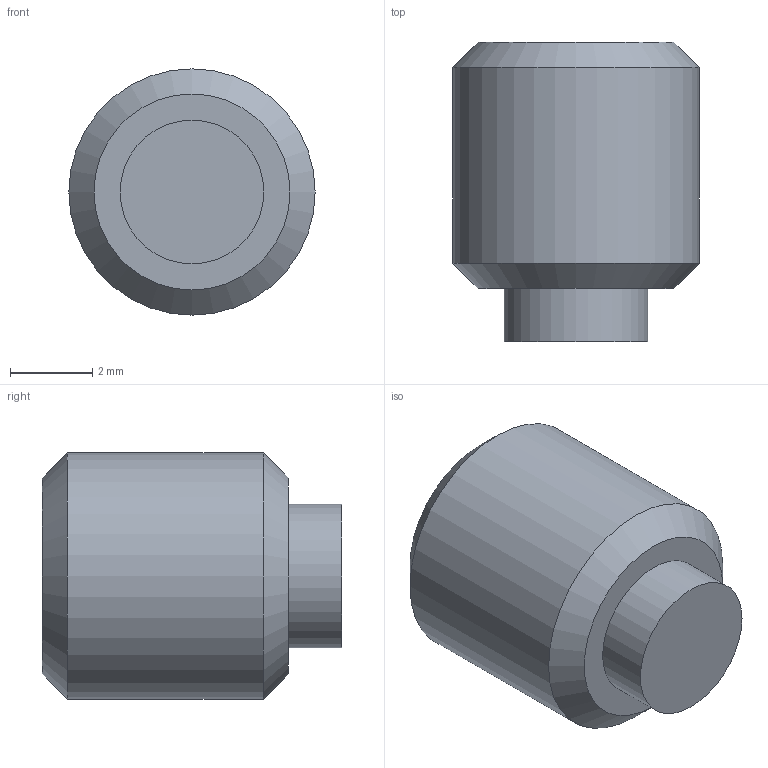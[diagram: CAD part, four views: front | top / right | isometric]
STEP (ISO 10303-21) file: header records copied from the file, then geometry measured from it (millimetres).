
FILE_DESCRIPTION( ( 'STEP AP203' ), '1' );
FILE_NAME( 'C:/Temp/Ganter_Step_05_03_2020/data/3_2/gn913_3/Grub screw GN 913.3-M6-6-KU.stp', '2020-03-13T05:35:35', ( 'License CC BY-ND 4.0' ), ( 'CADENAS' ), ' ', 'PARTsolutions', ' ' );
FILE_SCHEMA( ( 'CONFIG_CONTROL_DESIGN' ) );
Length unit declared in the file: millimetre
Products named in the file (1): _Grub screw GN 913.3-M6-6-KU
Bounding box: 6 x 7.3 x 6 mm (x, y, z)
Volume: 148.3 mm3; surface area: 205.8 mm2
Topology: 1 solids, 1 shells, 14 faces, 28 edges, 18 vertices
Faces by surface type: plane 10, cylinder 2, cone 2
Full cylindrical faces by diameter (mm): 3.5 x1, 6 x1
Entity records: 386 total; most frequent: DIRECTION 60, CARTESIAN_POINT 57, ORIENTED_EDGE 48, EDGE_CURVE 24, AXIS2_PLACEMENT_3D 21, EDGE_LOOP 20, VERTEX_POINT 18, LINE 18
